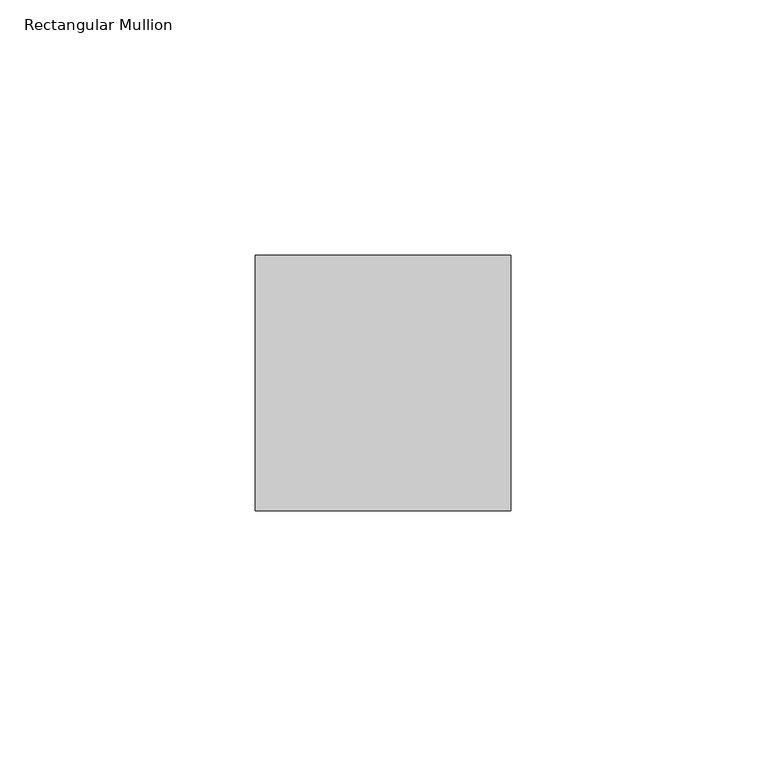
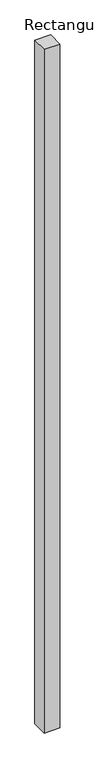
"""IFC4 building model written with IfcOpenShell, lengths in millimetres: member geometry, Rectangular Mullion : Mullion_Curtain Wall_Generic Showcase_50x50mm."""

from ifc_helpers import new_model, si_unit, frame, origin, place, context, project, spatial, polyline, outline, extrude, source, transform, mapped, element, save


def rectangular_mullion_a15ee0f8(model_context):
    return source(origin(), model_context, "Body", "SweptSolid", [
        extrude(outline(polyline([(25.0, 0.0), (25.0, -50.0), (-25.0, -50.0), (-25.0, 0.0), (25.0, 0.0)])), frame((0.0, 0.0, -2275.0), z_axis=(0.0, 0.0, 1.0), x_axis=(1.0, 0.0, 0.0)), (0.0, 0.0, 1.0), 2275.0),
    ])


if __name__ == "__main__":
    model = new_model("IFC4")
    model_context = context("Model", 3, world=origin())
    ifc_project = project(units=[si_unit("LENGTHUNIT", "METRE", prefix="MILLI")], contexts=[model_context])
    site = spatial("IfcSite", under=ifc_project)
    building = spatial("IfcBuilding", under=site)
    placement = place(None, origin())
    rectangular_mullion_shape = rectangular_mullion_a15ee0f8(model_context)
    element("IfcMember", 1, ObjectType="Rectangular Mullion : Mullion_Curtain Wall_Generic Showcase_50x50mm", at=placement, inside=building, context=model_context, shape_type="MappedRepresentation", body=[
        mapped(rectangular_mullion_shape, transform((0.0, 0.0, 0.0), x_axis=(1.0, 0.0, 0.0), y_axis=(0.0, 1.0, 0.0), z_axis=(0.0, 0.0, 1.0))),
    ])
    save(model, "model.ifc")
